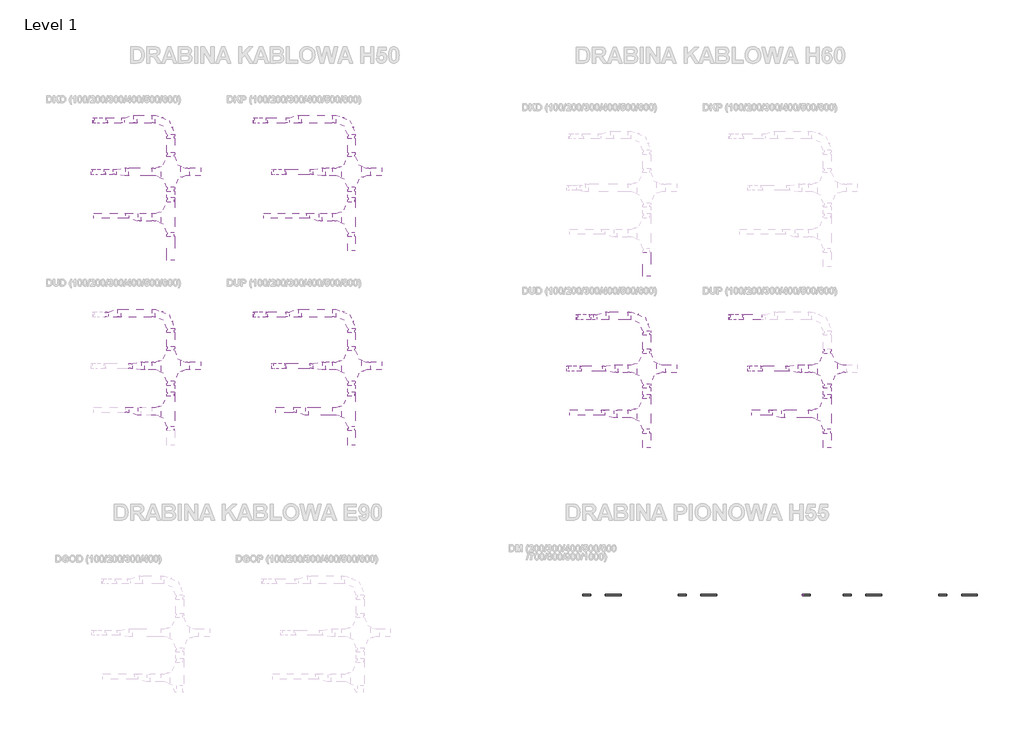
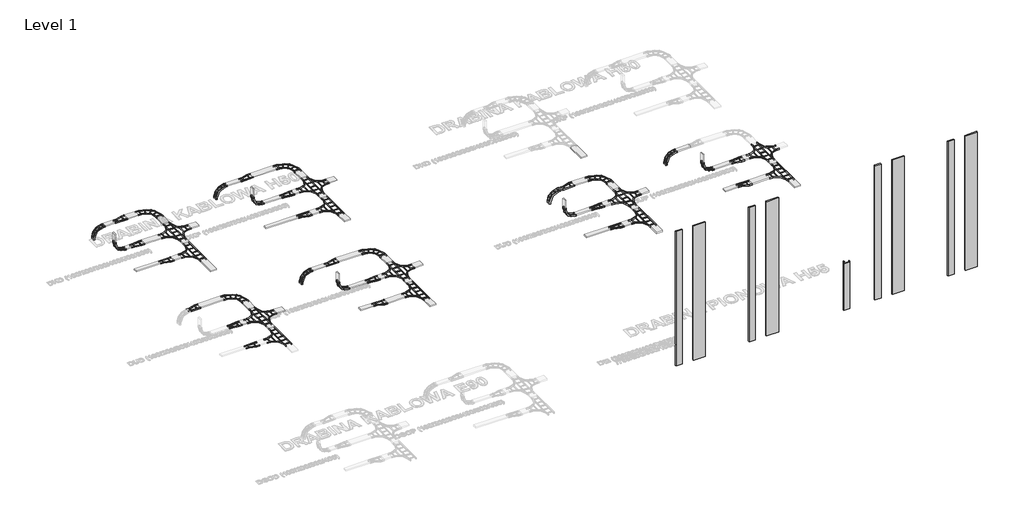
# One storey, part 5 of 42: 72 cable carrier segments, 45 cable carrier fittings.
"""IFC4 building model written with IfcOpenShell, lengths in millimetres."""

from ifc_helpers import new_model, si_unit, frame, origin, origin_with_axes, place, context, project, spatial, polyline, outline, extrude, transform, mapped, element, save
from components import cable_carrier_fitting_1_5_mm_3523910d, cable_carrier_fitting_1_5_mm_19f47176, cable_carrier_fitting_1_5_mm_3fb46f2a, cable_carrier_fitting_1_5_mm_6c32c4d6, cable_carrier_fitting_1_5_mm_98a35593, cable_carrier_fitting_1_5_mm_dfeaff0d, cable_carrier_fitting_1_5_mm_72e9b842, cable_carrier_fitting_1_5_mm_6b6fba04, cable_carrier_fitting_1_5_mm_c50eb6b4, cable_carrier_fitting_1_5_mm_1f838bc7, cable_carrier_fitting_1_5_mm_861352f9, cable_carrier_fitting_1_5_mm_f55de235, cable_carrier_fitting_1_5_mm_ccf48cd3, cable_carrier_fitting_1_5_mm_74426db5, cable_carrier_fitting_1_5_mm_0168b917, cable_carrier_fitting_1_5_mm_cc8ef015, cable_carrier_fitting_1_5_mm_7721eeaa, cable_carrier_fitting_1_5_mm_8b0a73e9, cable_carrier_fitting_1_5_mm_c053843e, standard_x2_db8cc8cd

model = new_model("IFC4")

# Units and contexts
model_context = context("Model", 3, world=origin())
ifc_project = project(units=[si_unit("LENGTHUNIT", "METRE", prefix="MILLI")], contexts=[model_context])

# Site, building, storey
site = spatial("IfcSite", under=ifc_project)
building = spatial("IfcBuilding", under=site)
storey = spatial("IfcBuildingStorey", under=building, Name="Level 1", Elevation=0.0)

# Cable carrier fittings
placement = place(None, origin())
cable_carrier_fitting_1_5_mm_shape = cable_carrier_fitting_1_5_mm_3523910d(model_context)
element("IfcCableCarrierFitting", 1, ObjectType="BAKS_Łuk_drabiny : 1.5 mm", at=placement, inside=storey, context=model_context, shape_type="MappedRepresentation", body=[
    mapped(cable_carrier_fitting_1_5_mm_shape, transform((35775.8987392, 13468.4533524, 2750.0), x_axis=(0.0, 1.0, 0.0), y_axis=(-1.0, 0.0, 0.0), z_axis=(0.0, 0.0, 1.0))),
])
cable_carrier_fitting_1_5_mm_2_shape = cable_carrier_fitting_1_5_mm_19f47176(model_context)
element("IfcCableCarrierFitting", 2, ObjectType="BAKS_Czwórnik_drabiny : 1.5 mm", at=placement, inside=storey, context=model_context, shape_type="MappedRepresentation", body=[
    mapped(cable_carrier_fitting_1_5_mm_2_shape, transform((35775.8987392, 11481.6749022, 2750.0), x_axis=(0.0, 1.0, 0.0), y_axis=(-1.0, 0.0, 0.0), z_axis=(0.0, 0.0, 1.0))),
])
element("IfcCableCarrierFitting", 3, ObjectType="BAKS_Czwórnik_drabiny : 1.5 mm", at=placement, inside=storey, context=model_context, shape_type="MappedRepresentation", body=[
    mapped(cable_carrier_fitting_1_5_mm_2_shape, transform((42575.8987392, 11481.6749022, 2750.0), x_axis=(0.0, 1.0, 0.0), y_axis=(-1.0, 0.0, 0.0), z_axis=(0.0, 0.0, 1.0))),
])
cable_carrier_fitting_1_5_mm_3_shape = cable_carrier_fitting_1_5_mm_3fb46f2a(model_context)
element("IfcCableCarrierFitting", 4, ObjectType="BAKS_Łuk_drabiny : 1.5 mm", at=placement, inside=storey, context=model_context, shape_type="MappedRepresentation", body=[
    mapped(cable_carrier_fitting_1_5_mm_3_shape, transform((17875.8987392, 20868.4533524, 2750.0), x_axis=(0.0, 1.0, 0.0), y_axis=(-1.0, 0.0, 0.0), z_axis=(0.0, 0.0, 1.0))),
])
element("IfcCableCarrierFitting", 5, ObjectType="BAKS_Łuk_drabiny : 1.5 mm", at=placement, inside=storey, context=model_context, shape_type="MappedRepresentation", body=[
    mapped(cable_carrier_fitting_1_5_mm_3_shape, transform((24675.8987392, 20868.4533524, 2750.0), x_axis=(0.0, 1.0, 0.0), y_axis=(-1.0, 0.0, 0.0), z_axis=(0.0, 0.0, 1.0))),
])
element("IfcCableCarrierFitting", 6, ObjectType="BAKS_Łuk_drabiny : 1.5 mm", at=placement, inside=storey, context=model_context, shape_type="MappedRepresentation", body=[
    mapped(cable_carrier_fitting_1_5_mm_3_shape, transform((17875.8987392, 13568.4533524, 2750.0), x_axis=(0.0, 1.0, 0.0), y_axis=(-1.0, 0.0, 0.0), z_axis=(0.0, 0.0, 1.0))),
])
element("IfcCableCarrierFitting", 7, ObjectType="BAKS_Łuk_drabiny : 1.5 mm", at=placement, inside=storey, context=model_context, shape_type="MappedRepresentation", body=[
    mapped(cable_carrier_fitting_1_5_mm_3_shape, transform((24675.8987392, 13568.4533524, 2750.0), x_axis=(0.0, 1.0, 0.0), y_axis=(-1.0, 0.0, 0.0), z_axis=(0.0, 0.0, 1.0))),
])
cable_carrier_fitting_1_5_mm_4_shape = cable_carrier_fitting_1_5_mm_6c32c4d6(model_context)
element("IfcCableCarrierFitting", 8, ObjectType="BAKS_Trójnik_drabiny : 1.5 mm", at=placement, inside=storey, context=model_context, shape_type="MappedRepresentation", body=[
    mapped(cable_carrier_fitting_1_5_mm_4_shape, transform((17875.8987392, 17179.8296821, 2750.0), x_axis=(0.0, -1.0, 0.0), y_axis=(1.0, 0.0, 0.0), z_axis=(0.0, 0.0, 1.0))),
])
element("IfcCableCarrierFitting", 9, ObjectType="BAKS_Trójnik_drabiny : 1.5 mm", at=placement, inside=storey, context=model_context, shape_type="MappedRepresentation", body=[
    mapped(cable_carrier_fitting_1_5_mm_4_shape, transform((24675.8987392, 17179.8296821, 2750.0), x_axis=(0.0, -1.0, 0.0), y_axis=(1.0, 0.0, 0.0), z_axis=(0.0, 0.0, 1.0))),
])
element("IfcCableCarrierFitting", 10, ObjectType="BAKS_Trójnik_drabiny : 1.5 mm", at=placement, inside=storey, context=model_context, shape_type="MappedRepresentation", body=[
    mapped(cable_carrier_fitting_1_5_mm_4_shape, transform((17875.8987392, 9879.8296821, 2750.0), x_axis=(0.0, -1.0, 0.0), y_axis=(1.0, 0.0, 0.0), z_axis=(0.0, 0.0, 1.0))),
])
element("IfcCableCarrierFitting", 11, ObjectType="BAKS_Trójnik_drabiny : 1.5 mm", at=placement, inside=storey, context=model_context, shape_type="MappedRepresentation", body=[
    mapped(cable_carrier_fitting_1_5_mm_4_shape, transform((24675.8987392, 9879.8296821, 2750.0), x_axis=(0.0, -1.0, 0.0), y_axis=(1.0, 0.0, 0.0), z_axis=(0.0, 0.0, 1.0))),
])
cable_carrier_fitting_1_5_mm_5_shape = cable_carrier_fitting_1_5_mm_98a35593(model_context)
element("IfcCableCarrierFitting", 12, ObjectType="BAKS_Czwórnik_drabiny : 1.5 mm", at=placement, inside=storey, context=model_context, shape_type="MappedRepresentation", body=[
    mapped(cable_carrier_fitting_1_5_mm_5_shape, transform((17875.8987392, 18881.6749022, 2750.0), x_axis=(0.0, 1.0, 0.0), y_axis=(-1.0, 0.0, 0.0), z_axis=(0.0, 0.0, 1.0))),
])
element("IfcCableCarrierFitting", 13, ObjectType="BAKS_Czwórnik_drabiny : 1.5 mm", at=placement, inside=storey, context=model_context, shape_type="MappedRepresentation", body=[
    mapped(cable_carrier_fitting_1_5_mm_5_shape, transform((24675.8987392, 18881.6749022, 2750.0), x_axis=(0.0, 1.0, 0.0), y_axis=(-1.0, 0.0, 0.0), z_axis=(0.0, 0.0, 1.0))),
])
element("IfcCableCarrierFitting", 14, ObjectType="BAKS_Czwórnik_drabiny : 1.5 mm", at=placement, inside=storey, context=model_context, shape_type="MappedRepresentation", body=[
    mapped(cable_carrier_fitting_1_5_mm_5_shape, transform((17875.8987392, 11581.6749022, 2750.0), x_axis=(0.0, 1.0, 0.0), y_axis=(-1.0, 0.0, 0.0), z_axis=(0.0, 0.0, 1.0))),
])
element("IfcCableCarrierFitting", 15, ObjectType="BAKS_Czwórnik_drabiny : 1.5 mm", at=placement, inside=storey, context=model_context, shape_type="MappedRepresentation", body=[
    mapped(cable_carrier_fitting_1_5_mm_5_shape, transform((24675.8987392, 11581.6749022, 2750.0), x_axis=(0.0, 1.0, 0.0), y_axis=(-1.0, 0.0, 0.0), z_axis=(0.0, 0.0, 1.0))),
])
cable_carrier_fitting_1_5_mm_6_shape = cable_carrier_fitting_1_5_mm_dfeaff0d(model_context)
element("IfcCableCarrierFitting", 16, ObjectType="BAKS_Redukcja_drabiny : 1.5 mm", at=placement, inside=storey, context=model_context, shape_type="MappedRepresentation", body=[
    mapped(cable_carrier_fitting_1_5_mm_6_shape, transform((16304.2228336, 18881.6749022, 2750.0), x_axis=(-1.0, 0.0, 0.0), y_axis=(0.0, -1.0, 0.0), z_axis=(0.0, 0.0, 1.0))),
])
cable_carrier_fitting_1_5_mm_7_shape = cable_carrier_fitting_1_5_mm_72e9b842(model_context)
element("IfcCableCarrierFitting", 17, ObjectType="BAKS_Redukcja_drabiny : 1.5 mm", at=placement, inside=storey, context=model_context, shape_type="MappedRepresentation", body=[
    mapped(cable_carrier_fitting_1_5_mm_7_shape, transform((16009.31285, 20818.4533524, 2750.0), x_axis=(1.0, 0.0, 0.0), y_axis=(0.0, 1.0, 0.0), z_axis=(0.0, 0.0, 1.0))),
])
cable_carrier_fitting_1_5_mm_8_shape = cable_carrier_fitting_1_5_mm_6b6fba04(model_context)
element("IfcCableCarrierFitting", 18, ObjectType="BAKS_Redukcja_drabiny : 1.5 mm", at=placement, inside=storey, context=model_context, shape_type="MappedRepresentation", body=[
    mapped(cable_carrier_fitting_1_5_mm_8_shape, transform((23104.2228336, 18881.6749022, 2750.0), x_axis=(1.0, 0.0, 0.0), y_axis=(0.0, 1.0, 0.0), z_axis=(0.0, 0.0, 1.0))),
])
element("IfcCableCarrierFitting", 19, ObjectType="BAKS_Redukcja_drabiny : 1.5 mm", at=placement, inside=storey, context=model_context, shape_type="MappedRepresentation", body=[
    mapped(cable_carrier_fitting_1_5_mm_8_shape, transform((16304.2228336, 11581.6749022, 2750.0), x_axis=(1.0, 0.0, 0.0), y_axis=(0.0, 1.0, 0.0), z_axis=(0.0, 0.0, 1.0))),
])
element("IfcCableCarrierFitting", 20, ObjectType="BAKS_Redukcja_drabiny : 1.5 mm", at=placement, inside=storey, context=model_context, shape_type="MappedRepresentation", body=[
    mapped(cable_carrier_fitting_1_5_mm_8_shape, transform((23104.2228336, 11581.6749022, 2750.0), x_axis=(1.0, 0.0, 0.0), y_axis=(0.0, 1.0, 0.0), z_axis=(0.0, 0.0, 1.0))),
])
cable_carrier_fitting_1_5_mm_9_shape = cable_carrier_fitting_1_5_mm_c50eb6b4(model_context)
element("IfcCableCarrierFitting", 21, ObjectType="BAKS_Redukcja_drabiny : 1.5 mm", at=placement, inside=storey, context=model_context, shape_type="MappedRepresentation", body=[
    mapped(cable_carrier_fitting_1_5_mm_9_shape, transform((22809.31285, 20868.4533524, 2750.0), x_axis=(-1.0, 0.0, 0.0), y_axis=(0.0, -1.0, 0.0), z_axis=(0.0, 0.0, 1.0))),
])
element("IfcCableCarrierFitting", 22, ObjectType="BAKS_Redukcja_drabiny : 1.5 mm", at=placement, inside=storey, context=model_context, shape_type="MappedRepresentation", body=[
    mapped(cable_carrier_fitting_1_5_mm_9_shape, transform((16009.31285, 13568.4533524, 2750.0), x_axis=(-1.0, 0.0, 0.0), y_axis=(0.0, -1.0, 0.0), z_axis=(0.0, 0.0, 1.0))),
])
element("IfcCableCarrierFitting", 23, ObjectType="BAKS_Redukcja_drabiny : 1.5 mm", at=placement, inside=storey, context=model_context, shape_type="MappedRepresentation", body=[
    mapped(cable_carrier_fitting_1_5_mm_9_shape, transform((22809.31285, 13568.4533524, 2750.0), x_axis=(-1.0, 0.0, 0.0), y_axis=(0.0, -1.0, 0.0), z_axis=(0.0, 0.0, 1.0))),
])
cable_carrier_fitting_1_5_mm_10_shape = cable_carrier_fitting_1_5_mm_1f838bc7(model_context)
element("IfcCableCarrierFitting", 24, ObjectType="BAKS_Redukcja_drabiny : 1.5 mm", at=placement, inside=storey, context=model_context, shape_type="MappedRepresentation", body=[
    mapped(cable_carrier_fitting_1_5_mm_10_shape, transform((16775.8987392, 17179.8296821, 2750.0), x_axis=(-1.0, 0.0, 0.0), y_axis=(0.0, -1.0, 0.0), z_axis=(0.0, 0.0, 1.0))),
])
element("IfcCableCarrierFitting", 25, ObjectType="BAKS_Redukcja_drabiny : 1.5 mm", at=placement, inside=storey, context=model_context, shape_type="MappedRepresentation", body=[
    mapped(cable_carrier_fitting_1_5_mm_10_shape, transform((23575.8987392, 17179.8296821, 2750.0), x_axis=(-1.0, 0.0, 0.0), y_axis=(0.0, -1.0, 0.0), z_axis=(0.0, 0.0, 1.0))),
])
element("IfcCableCarrierFitting", 26, ObjectType="BAKS_Redukcja_drabiny : 1.5 mm", at=placement, inside=storey, context=model_context, shape_type="MappedRepresentation", body=[
    mapped(cable_carrier_fitting_1_5_mm_10_shape, transform((16775.8987392, 9879.8296821, 2750.0), x_axis=(-1.0, 0.0, 0.0), y_axis=(0.0, -1.0, 0.0), z_axis=(0.0, 0.0, 1.0))),
])
element("IfcCableCarrierFitting", 27, ObjectType="BAKS_Redukcja_drabiny : 1.5 mm", at=placement, inside=storey, context=model_context, shape_type="MappedRepresentation", body=[
    mapped(cable_carrier_fitting_1_5_mm_10_shape, transform((23075.8987392, 9879.8296821, 2750.0), x_axis=(-1.0, 0.0, 0.0), y_axis=(0.0, -1.0, 0.0), z_axis=(0.0, 0.0, 1.0))),
])
cable_carrier_fitting_1_5_mm_11_shape = cable_carrier_fitting_1_5_mm_861352f9(model_context)
element("IfcCableCarrierFitting", 28, ObjectType="BAKS_Łuk_pionowy_drabiny_zew : 1.5 mm", at=placement, inside=storey, context=model_context, shape_type="MappedRepresentation", body=[
    mapped(cable_carrier_fitting_1_5_mm_11_shape, transform((14977.0936106, 20818.4533524, 2750.0), x_axis=(0.0, 0.0, 1.0), y_axis=(1.0, 0.0, 0.0), z_axis=(0.0, 1.0, 0.0))),
])
element("IfcCableCarrierFitting", 29, ObjectType="BAKS_Łuk_pionowy_drabiny_zew : 1.5 mm", at=placement, inside=storey, context=model_context, shape_type="MappedRepresentation", body=[
    mapped(cable_carrier_fitting_1_5_mm_11_shape, transform((20999.2228336, 20818.4533524, 2750.0), x_axis=(0.0, 0.0, 1.0), y_axis=(1.0, 0.0, 0.0), z_axis=(0.0, 1.0, 0.0))),
])
element("IfcCableCarrierFitting", 30, ObjectType="BAKS_Łuk_pionowy_drabiny_zew : 1.5 mm", at=placement, inside=storey, context=model_context, shape_type="MappedRepresentation", body=[
    mapped(cable_carrier_fitting_1_5_mm_11_shape, transform((20999.2228336, 13518.4533524, 2750.0), x_axis=(0.0, 0.0, 1.0), y_axis=(1.0, 0.0, 0.0), z_axis=(0.0, 1.0, 0.0))),
])
cable_carrier_fitting_1_5_mm_12_shape = cable_carrier_fitting_1_5_mm_f55de235(model_context)
element("IfcCableCarrierFitting", 31, ObjectType="BAKS_Łuk_pionowy_drabiny_wew : 1.5 mm", at=placement, inside=storey, context=model_context, shape_type="MappedRepresentation", body=[
    mapped(cable_carrier_fitting_1_5_mm_12_shape, transform((14904.2228336, 18881.6749022, 2750.0), x_axis=(-1.0, 0.0, 0.0), y_axis=(0.0, 0.0, 1.0), z_axis=(0.0, 1.0, 0.0))),
])
element("IfcCableCarrierFitting", 32, ObjectType="BAKS_Łuk_pionowy_drabiny_wew : 1.5 mm", at=placement, inside=storey, context=model_context, shape_type="MappedRepresentation", body=[
    mapped(cable_carrier_fitting_1_5_mm_12_shape, transform((21704.2228336, 18881.6749022, 2750.0), x_axis=(0.0, 0.0, -1.0), y_axis=(1.0, 0.0, 0.0), z_axis=(0.0, -1.0, 0.0))),
])
element("IfcCableCarrierFitting", 33, ObjectType="BAKS_Łuk_pionowy_drabiny_wew : 1.5 mm", at=placement, inside=storey, context=model_context, shape_type="MappedRepresentation", body=[
    mapped(cable_carrier_fitting_1_5_mm_12_shape, transform((21704.2228336, 11581.6749022, 2750.0), x_axis=(0.0, 0.0, -1.0), y_axis=(1.0, 0.0, 0.0), z_axis=(0.0, -1.0, 0.0))),
])
cable_carrier_fitting_1_5_mm_13_shape = cable_carrier_fitting_1_5_mm_ccf48cd3(model_context)
element("IfcCableCarrierFitting", 34, ObjectType="BAKS_Redukcja_drabiny : 1.5 mm", at=placement, inside=storey, context=model_context, shape_type="MappedRepresentation", body=[
    mapped(cable_carrier_fitting_1_5_mm_13_shape, transform((34675.8987392, 9779.8296821, 2750.0), x_axis=(-1.0, 0.0, 0.0), y_axis=(0.0, -1.0, 0.0), z_axis=(0.0, 0.0, 1.0))),
])
element("IfcCableCarrierFitting", 35, ObjectType="BAKS_Redukcja_drabiny : 1.5 mm", at=placement, inside=storey, context=model_context, shape_type="MappedRepresentation", body=[
    mapped(cable_carrier_fitting_1_5_mm_13_shape, transform((40975.8987392, 9779.8296821, 2750.0), x_axis=(-1.0, 0.0, 0.0), y_axis=(0.0, -1.0, 0.0), z_axis=(0.0, 0.0, 1.0))),
])
cable_carrier_fitting_1_5_mm_14_shape = cable_carrier_fitting_1_5_mm_74426db5(model_context)
element("IfcCableCarrierFitting", 36, ObjectType="BAKS_Redukcja_drabiny : 1.5 mm", at=placement, inside=storey, context=model_context, shape_type="MappedRepresentation", body=[
    mapped(cable_carrier_fitting_1_5_mm_14_shape, transform((41604.2228336, 11481.6749022, 2750.0), x_axis=(-1.0, 0.0, 0.0), y_axis=(0.0, -1.0, 0.0), z_axis=(0.0, 0.0, 1.0))),
])
cable_carrier_fitting_1_5_mm_15_shape = cable_carrier_fitting_1_5_mm_0168b917(model_context)
element("IfcCableCarrierFitting", 37, ObjectType="BAKS_Redukcja_drabiny : 1.5 mm", at=placement, inside=storey, context=model_context, shape_type="MappedRepresentation", body=[
    mapped(cable_carrier_fitting_1_5_mm_15_shape, transform((33775.8987392, 13418.4533524, 2750.0), x_axis=(1.0, 0.0, 0.0), y_axis=(0.0, 1.0, 0.0), z_axis=(0.0, 0.0, 1.0))),
])
cable_carrier_fitting_1_5_mm_16_shape = cable_carrier_fitting_1_5_mm_cc8ef015(model_context)
element("IfcCableCarrierFitting", 38, ObjectType="BAKS_Łuk_pionowy_drabiny_zew : 1.5 mm", at=placement, inside=storey, context=model_context, shape_type="MappedRepresentation", body=[
    mapped(cable_carrier_fitting_1_5_mm_16_shape, transform((33154.31285, 13418.4533524, 2750.0), x_axis=(0.0, 0.0, 1.0), y_axis=(1.0, 0.0, 0.0), z_axis=(0.0, 1.0, 0.0))),
])
element("IfcCableCarrierFitting", 39, ObjectType="BAKS_Łuk_pionowy_drabiny_zew : 1.5 mm", at=placement, inside=storey, context=model_context, shape_type="MappedRepresentation", body=[
    mapped(cable_carrier_fitting_1_5_mm_16_shape, transform((38899.2228336, 13418.4533524, 2750.0), x_axis=(0.0, 0.0, 1.0), y_axis=(1.0, 0.0, 0.0), z_axis=(0.0, 1.0, 0.0))),
])
cable_carrier_fitting_1_5_mm_17_shape = cable_carrier_fitting_1_5_mm_7721eeaa(model_context)
element("IfcCableCarrierFitting", 40, ObjectType="BAKS_Łuk_pionowy_drabiny_wew : 1.5 mm", at=placement, inside=storey, context=model_context, shape_type="MappedRepresentation", body=[
    mapped(cable_carrier_fitting_1_5_mm_17_shape, transform((39604.2228336, 11481.6749022, 2750.0), x_axis=(0.0, 0.0, -1.0), y_axis=(1.0, 0.0, 0.0), z_axis=(0.0, -1.0, 0.0))),
])
element("IfcCableCarrierFitting", 41, ObjectType="BAKS_Łuk_pionowy_drabiny_wew : 1.5 mm", at=placement, inside=storey, context=model_context, shape_type="MappedRepresentation", body=[
    mapped(cable_carrier_fitting_1_5_mm_17_shape, transform((32804.2228336, 11481.6749022, 2750.0), x_axis=(0.0, 0.0, -1.0), y_axis=(1.0, 0.0, 0.0), z_axis=(0.0, -1.0, 0.0))),
])
cable_carrier_fitting_1_5_mm_18_shape = cable_carrier_fitting_1_5_mm_8b0a73e9(model_context)
element("IfcCableCarrierFitting", 42, ObjectType="BAKS_Trójnik_drabiny : 1.5 mm", at=placement, inside=storey, context=model_context, shape_type="MappedRepresentation", body=[
    mapped(cable_carrier_fitting_1_5_mm_18_shape, transform((35775.8987392, 9779.8296821, 2750.0), x_axis=(0.0, -1.0, 0.0), y_axis=(1.0, 0.0, 0.0), z_axis=(0.0, 0.0, 1.0))),
])
element("IfcCableCarrierFitting", 43, ObjectType="BAKS_Trójnik_drabiny : 1.5 mm", at=placement, inside=storey, context=model_context, shape_type="MappedRepresentation", body=[
    mapped(cable_carrier_fitting_1_5_mm_18_shape, transform((42575.8987392, 9779.8296821, 2750.0), x_axis=(0.0, -1.0, 0.0), y_axis=(1.0, 0.0, 0.0), z_axis=(0.0, 0.0, 1.0))),
])
cable_carrier_fitting_1_5_mm_19_shape = cable_carrier_fitting_1_5_mm_c053843e(model_context)
element("IfcCableCarrierFitting", 44, ObjectType="BAKS_Redukcja_drabiny : 1.5 mm", at=placement, inside=storey, context=model_context, shape_type="MappedRepresentation", body=[
    mapped(cable_carrier_fitting_1_5_mm_19_shape, transform((34104.2228336, 11481.6749022, 2750.0), x_axis=(1.0, 0.0, 0.0), y_axis=(0.0, 1.0, 0.0), z_axis=(0.0, 0.0, 1.0))),
])
standard_x2_shape = standard_x2_db8cc8cd(model_context)
element("IfcCableCarrierFitting", 45, ObjectType="BAKS_Łącznik_kątowy : Standard x2", at=placement, inside=storey, context=model_context, shape_type="MappedRepresentation", body=[
    mapped(standard_x2_shape, transform((41776.7948371, 2964.3646331, 2464.3062733), x_axis=(0.0, 0.0, 1.0), y_axis=(1.0, 0.0, 0.0), z_axis=(0.0, 1.0, 0.0))),
])

# Cable carrier segments
element("IfcCableCarrierSegment", 46, ObjectType="BAKS - drabina kablowa H50 (DKD)", at=placement, inside=storey, context=model_context, shape_type="SweptSolid", body=[
    extrude(outline(polyline([(15002.0936106, 20718.4533524), (14952.0936106, 20718.4533524), (14952.0936106, 20918.4533524), (15002.0936106, 20918.4533524), (15002.0936106, 20718.4533524)])), frame((0.0, 0.0, 2200.0), z_axis=(0.0, 0.0, 1.0), x_axis=(1.0, 0.0, 0.0)), (0.0, 0.0, 1.0), 25.0),
])
element("IfcCableCarrierSegment", 47, ObjectType="BAKS - drabina kablowa H50 (DKD)", at=placement, inside=storey, context=model_context, shape_type="SweptSolid", body=[
    extrude(outline(polyline([(17725.8987392, 16459.8296821), (18025.8987392, 16459.8296821), (18025.8987392, 15559.8296821), (17725.8987392, 15559.8296821), (17725.8987392, 16459.8296821)])), frame((0.0, 0.0, 2725.0), z_axis=(0.0, 0.0, 1.0), x_axis=(1.0, 0.0, 0.0)), (0.0, 0.0, 1.0), 50.0),
])
element("IfcCableCarrierSegment", 48, ObjectType="BAKS - drabina kablowa H50 (DKD)", at=placement, inside=storey, context=model_context, shape_type="SweptSolid", body=[
    extrude(outline(polyline([(17155.8987392, 17329.8296821), (17155.8987392, 17029.8296821), (16775.8987392, 17029.8296821), (16775.8987392, 17329.8296821), (17155.8987392, 17329.8296821)])), frame((0.0, 0.0, 2725.0), z_axis=(0.0, 0.0, 1.0), x_axis=(1.0, 0.0, 0.0)), (0.0, 0.0, 1.0), 50.0),
])
element("IfcCableCarrierSegment", 49, ObjectType="BAKS - drabina kablowa H50 (DKD)", at=placement, inside=storey, context=model_context, shape_type="SweptSolid", body=[
    extrude(outline(polyline([(17155.8987392, 21018.4533524), (17155.8987392, 20718.4533524), (16609.31285, 20718.4533524), (16609.31285, 21018.4533524), (17155.8987392, 21018.4533524)])), frame((0.0, 0.0, 2725.0), z_axis=(0.0, 0.0, 1.0), x_axis=(1.0, 0.0, 0.0)), (0.0, 0.0, 1.0), 50.0),
])
element("IfcCableCarrierSegment", 50, ObjectType="BAKS - drabina kablowa H50 (DKD)", at=placement, inside=storey, context=model_context, shape_type="SweptSolid", body=[
    extrude(outline(polyline([(18025.8987392, 19601.6749022), (17725.8987392, 19601.6749022), (17725.8987392, 20148.4533524), (18025.8987392, 20148.4533524), (18025.8987392, 19601.6749022)])), frame((0.0, 0.0, 2725.0), z_axis=(0.0, 0.0, 1.0), x_axis=(1.0, 0.0, 0.0)), (0.0, 0.0, 1.0), 50.0),
])
element("IfcCableCarrierSegment", 51, ObjectType="BAKS - drabina kablowa H50 (DKD)", at=placement, inside=storey, context=model_context, shape_type="SweptSolid", body=[
    extrude(outline(polyline([(18595.8987392, 18731.6749022), (18595.8987392, 19031.6749022), (19004.2228336, 19031.6749022), (19004.2228336, 18731.6749022), (18595.8987392, 18731.6749022)])), frame((0.0, 0.0, 2725.0), z_axis=(0.0, 0.0, 1.0), x_axis=(1.0, 0.0, 0.0)), (0.0, 0.0, 1.0), 50.0),
])
element("IfcCableCarrierSegment", 52, ObjectType="BAKS - drabina kablowa H50 (DKD)", at=placement, inside=storey, context=model_context, shape_type="SweptSolid", body=[
    extrude(outline(polyline([(18025.8987392, 17899.8296821), (17725.8987392, 17899.8296821), (17725.8987392, 18161.6749022), (18025.8987392, 18161.6749022), (18025.8987392, 17899.8296821)])), frame((0.0, 0.0, 2725.0), z_axis=(0.0, 0.0, 1.0), x_axis=(1.0, 0.0, 0.0)), (0.0, 0.0, 1.0), 50.0),
])
element("IfcCableCarrierSegment", 53, ObjectType="BAKS - drabina kablowa H50 (DKD)", at=placement, inside=storey, context=model_context, shape_type="SweptSolid", body=[
    extrude(outline(polyline([(17155.8987392, 19031.6749022), (17155.8987392, 18731.6749022), (16304.2228336, 18731.6749022), (16304.2228336, 19031.6749022), (17155.8987392, 19031.6749022)])), frame((0.0, 0.0, 2725.0), z_axis=(0.0, 0.0, 1.0), x_axis=(1.0, 0.0, 0.0)), (0.0, 0.0, 1.0), 50.0),
])
element("IfcCableCarrierSegment", 54, ObjectType="BAKS - drabina kablowa H50 (DKD)", at=placement, inside=storey, context=model_context, shape_type="SweptSolid", body=[
    extrude(outline(polyline([(15704.2228336, 18981.6749022), (15704.2228336, 18781.6749022), (15429.2228336, 18781.6749022), (15429.2228336, 18981.6749022), (15704.2228336, 18981.6749022)])), frame((0.0, 0.0, 2725.0), z_axis=(0.0, 0.0, 1.0), x_axis=(1.0, 0.0, 0.0)), (0.0, 0.0, 1.0), 50.0),
])
element("IfcCableCarrierSegment", 55, ObjectType="BAKS - drabina kablowa H50 (DKD)", at=placement, inside=storey, context=model_context, shape_type="SweptSolid", body=[
    extrude(outline(polyline([(15502.0936106, 20718.4533524), (15502.0936106, 20918.4533524), (16009.31285, 20918.4533524), (16009.31285, 20718.4533524), (15502.0936106, 20718.4533524)])), frame((0.0, 0.0, 2725.0), z_axis=(0.0, 0.0, 1.0), x_axis=(1.0, 0.0, 0.0)), (0.0, 0.0, 1.0), 50.0),
])
element("IfcCableCarrierSegment", 56, ObjectType="BAKS - drabina kablowa H50 (DKD)", at=placement, inside=storey, context=model_context, shape_type="SweptSolid", body=[
    extrude(outline(polyline([(14879.2228336, 18981.6749022), (14929.2228336, 18981.6749022), (14929.2228336, 18781.6749022), (14879.2228336, 18781.6749022), (14879.2228336, 18981.6749022)])), frame((0.0, 0.0, 3275.0), z_axis=(0.0, 0.0, 1.0), x_axis=(1.0, 0.0, 0.0)), (0.0, 0.0, 1.0), 425.0),
])
element("IfcCableCarrierSegment", 57, ObjectType="BAKS - drabina kablowa H50 (DKP)", at=placement, inside=storey, context=model_context, shape_type="SweptSolid", body=[
    extrude(outline(polyline([(24825.8987392, 17899.8296821), (24525.8987392, 17899.8296821), (24525.8987392, 18161.6749022), (24825.8987392, 18161.6749022), (24825.8987392, 17899.8296821)])), frame((0.0, 0.0, 2725.0), z_axis=(0.0, 0.0, 1.0), x_axis=(1.0, 0.0, 0.0)), (0.0, 0.0, 1.0), 50.0),
])
element("IfcCableCarrierSegment", 58, ObjectType="BAKS - drabina kablowa H50 (DKP)", at=placement, inside=storey, context=model_context, shape_type="SweptSolid", body=[
    extrude(outline(polyline([(21024.2228336, 20718.4533524), (20974.2228336, 20718.4533524), (20974.2228336, 20918.4533524), (21024.2228336, 20918.4533524), (21024.2228336, 20718.4533524)])), frame((0.0, 0.0, 2200.0), z_axis=(0.0, 0.0, 1.0), x_axis=(1.0, 0.0, 0.0)), (0.0, 0.0, 1.0), 25.0),
])
element("IfcCableCarrierSegment", 59, ObjectType="BAKS - drabina kablowa H50 (DKP)", at=placement, inside=storey, context=model_context, shape_type="SweptSolid", body=[
    extrude(outline(polyline([(24825.8987392, 15908.4533524), (24525.8987392, 15908.4533524), (24525.8987392, 16459.8296821), (24825.8987392, 16459.8296821), (24825.8987392, 15908.4533524)])), frame((0.0, 0.0, 2725.0), z_axis=(0.0, 0.0, 1.0), x_axis=(1.0, 0.0, 0.0)), (0.0, 0.0, 1.0), 50.0),
])
element("IfcCableCarrierSegment", 60, ObjectType="BAKS - drabina kablowa H50 (DKP)", at=placement, inside=storey, context=model_context, shape_type="SweptSolid", body=[
    extrude(outline(polyline([(25804.2228336, 19031.6749022), (25804.2228336, 18731.6749022), (25395.8987392, 18731.6749022), (25395.8987392, 19031.6749022), (25804.2228336, 19031.6749022)])), frame((0.0, 0.0, 2725.0), z_axis=(0.0, 0.0, 1.0), x_axis=(1.0, 0.0, 0.0)), (0.0, 0.0, 1.0), 50.0),
])
element("IfcCableCarrierSegment", 61, ObjectType="BAKS - drabina kablowa H50 (DKP)", at=placement, inside=storey, context=model_context, shape_type="SweptSolid", body=[
    extrude(outline(polyline([(21679.2228336, 18781.6749022), (21679.2228336, 18981.6749022), (21729.2228336, 18981.6749022), (21729.2228336, 18781.6749022), (21679.2228336, 18781.6749022)])), frame((0.0, 0.0, 3275.0), z_axis=(0.0, 0.0, 1.0), x_axis=(1.0, 0.0, 0.0)), (0.0, 0.0, 1.0), 425.0),
])
element("IfcCableCarrierSegment", 62, ObjectType="BAKS - drabina kablowa H50 (DKP)", at=placement, inside=storey, context=model_context, shape_type="SweptSolid", body=[
    extrude(outline(polyline([(22229.2228336, 18781.6749022), (22229.2228336, 18981.6749022), (23104.2228336, 18981.6749022), (23104.2228336, 18781.6749022), (22229.2228336, 18781.6749022)])), frame((0.0, 0.0, 2725.0), z_axis=(0.0, 0.0, 1.0), x_axis=(1.0, 0.0, 0.0)), (0.0, 0.0, 1.0), 50.0),
])
element("IfcCableCarrierSegment", 63, ObjectType="BAKS - drabina kablowa H50 (DKP)", at=placement, inside=storey, context=model_context, shape_type="SweptSolid", body=[
    extrude(outline(polyline([(23575.8987392, 17029.8296821), (23575.8987392, 17329.8296821), (23955.8987392, 17329.8296821), (23955.8987392, 17029.8296821), (23575.8987392, 17029.8296821)])), frame((0.0, 0.0, 2725.0), z_axis=(0.0, 0.0, 1.0), x_axis=(1.0, 0.0, 0.0)), (0.0, 0.0, 1.0), 50.0),
])
element("IfcCableCarrierSegment", 64, ObjectType="BAKS - drabina kablowa H50 (DKP)", at=placement, inside=storey, context=model_context, shape_type="SweptSolid", body=[
    extrude(outline(polyline([(23704.2228336, 18731.6749022), (23704.2228336, 19031.6749022), (23955.8987392, 19031.6749022), (23955.8987392, 18731.6749022), (23704.2228336, 18731.6749022)])), frame((0.0, 0.0, 2725.0), z_axis=(0.0, 0.0, 1.0), x_axis=(1.0, 0.0, 0.0)), (0.0, 0.0, 1.0), 50.0),
])
element("IfcCableCarrierSegment", 65, ObjectType="BAKS - drabina kablowa H50 (DKP)", at=placement, inside=storey, context=model_context, shape_type="SweptSolid", body=[
    extrude(outline(polyline([(24825.8987392, 19601.6749022), (24525.8987392, 19601.6749022), (24525.8987392, 20148.4533524), (24825.8987392, 20148.4533524), (24825.8987392, 19601.6749022)])), frame((0.0, 0.0, 2725.0), z_axis=(0.0, 0.0, 1.0), x_axis=(1.0, 0.0, 0.0)), (0.0, 0.0, 1.0), 50.0),
])
element("IfcCableCarrierSegment", 66, ObjectType="BAKS - drabina kablowa H50 (DKP)", at=placement, inside=storey, context=model_context, shape_type="SweptSolid", body=[
    extrude(outline(polyline([(23955.8987392, 21018.4533524), (23955.8987392, 20718.4533524), (22809.31285, 20718.4533524), (22809.31285, 21018.4533524), (23955.8987392, 21018.4533524)])), frame((0.0, 0.0, 2725.0), z_axis=(0.0, 0.0, 1.0), x_axis=(1.0, 0.0, 0.0)), (0.0, 0.0, 1.0), 50.0),
])
element("IfcCableCarrierSegment", 67, ObjectType="BAKS - drabina kablowa H50 (DKP)", at=placement, inside=storey, context=model_context, shape_type="SweptSolid", body=[
    extrude(outline(polyline([(22209.31285, 20918.4533524), (22209.31285, 20718.4533524), (21524.2228336, 20718.4533524), (21524.2228336, 20918.4533524), (22209.31285, 20918.4533524)])), frame((0.0, 0.0, 2725.0), z_axis=(0.0, 0.0, 1.0), x_axis=(1.0, 0.0, 0.0)), (0.0, 0.0, 1.0), 50.0),
])
element("IfcCableCarrierSegment", 68, ObjectType="BAKS - drabina kablowa H50 (DUD)", at=placement, inside=storey, context=model_context, shape_type="SweptSolid", body=[
    extrude(outline(polyline([(18025.8987392, 10599.8296821), (17725.8987392, 10599.8296821), (17725.8987392, 10861.6749022), (18025.8987392, 10861.6749022), (18025.8987392, 10599.8296821)])), frame((0.0, 0.0, 2725.0), z_axis=(0.0, 0.0, 1.0), x_axis=(1.0, 0.0, 0.0)), (0.0, 0.0, 1.0), 50.0),
])
element("IfcCableCarrierSegment", 69, ObjectType="BAKS - drabina kablowa H50 (DUD)", at=placement, inside=storey, context=model_context, shape_type="SweptSolid", body=[
    extrude(outline(polyline([(19004.2228336, 11731.6749022), (19004.2228336, 11431.6749022), (18595.8987392, 11431.6749022), (18595.8987392, 11731.6749022), (19004.2228336, 11731.6749022)])), frame((0.0, 0.0, 2725.0), z_axis=(0.0, 0.0, 1.0), x_axis=(1.0, 0.0, 0.0)), (0.0, 0.0, 1.0), 50.0),
])
element("IfcCableCarrierSegment", 70, ObjectType="BAKS - drabina kablowa H50 (DUD)", at=placement, inside=storey, context=model_context, shape_type="SweptSolid", body=[
    extrude(outline(polyline([(16904.2228336, 11431.6749022), (16904.2228336, 11731.6749022), (17155.8987392, 11731.6749022), (17155.8987392, 11431.6749022), (16904.2228336, 11431.6749022)])), frame((0.0, 0.0, 2725.0), z_axis=(0.0, 0.0, 1.0), x_axis=(1.0, 0.0, 0.0)), (0.0, 0.0, 1.0), 50.0),
])
element("IfcCableCarrierSegment", 71, ObjectType="BAKS - drabina kablowa H50 (DUD)", at=placement, inside=storey, context=model_context, shape_type="SweptSolid", body=[
    extrude(outline(polyline([(18025.8987392, 12301.6749022), (17725.8987392, 12301.6749022), (17725.8987392, 12848.4533524), (18025.8987392, 12848.4533524), (18025.8987392, 12301.6749022)])), frame((0.0, 0.0, 2725.0), z_axis=(0.0, 0.0, 1.0), x_axis=(1.0, 0.0, 0.0)), (0.0, 0.0, 1.0), 50.0),
])
element("IfcCableCarrierSegment", 72, ObjectType="BAKS - drabina kablowa H50 (DUD)", at=placement, inside=storey, context=model_context, shape_type="SweptSolid", body=[
    extrude(outline(polyline([(17155.8987392, 13718.4533524), (17155.8987392, 13418.4533524), (16009.31285, 13418.4533524), (16009.31285, 13718.4533524), (17155.8987392, 13718.4533524)])), frame((0.0, 0.0, 2725.0), z_axis=(0.0, 0.0, 1.0), x_axis=(1.0, 0.0, 0.0)), (0.0, 0.0, 1.0), 50.0),
])
element("IfcCableCarrierSegment", 73, ObjectType="BAKS - drabina kablowa H50 (DUP)", at=placement, inside=storey, context=model_context, shape_type="SweptSolid", body=[
    extrude(outline(polyline([(24825.8987392, 10599.8296821), (24525.8987392, 10599.8296821), (24525.8987392, 10861.6749022), (24825.8987392, 10861.6749022), (24825.8987392, 10599.8296821)])), frame((0.0, 0.0, 2725.0), z_axis=(0.0, 0.0, 1.0), x_axis=(1.0, 0.0, 0.0)), (0.0, 0.0, 1.0), 50.0),
])
element("IfcCableCarrierSegment", 74, ObjectType="BAKS - drabina kablowa H50 (DUP)", at=placement, inside=storey, context=model_context, shape_type="SweptSolid", body=[
    extrude(outline(polyline([(21024.2228336, 13418.4533524), (20974.2228336, 13418.4533524), (20974.2228336, 13618.4533524), (21024.2228336, 13618.4533524), (21024.2228336, 13418.4533524)])), frame((0.0, 0.0, 2200.0), z_axis=(0.0, 0.0, 1.0), x_axis=(1.0, 0.0, 0.0)), (0.0, 0.0, 1.0), 25.0),
])
element("IfcCableCarrierSegment", 75, ObjectType="BAKS - drabina kablowa H50 (DUP)", at=placement, inside=storey, context=model_context, shape_type="SweptSolid", body=[
    extrude(outline(polyline([(22209.31285, 13618.4533524), (22209.31285, 13418.4533524), (21524.2228336, 13418.4533524), (21524.2228336, 13618.4533524), (22209.31285, 13618.4533524)])), frame((0.0, 0.0, 2725.0), z_axis=(0.0, 0.0, 1.0), x_axis=(1.0, 0.0, 0.0)), (0.0, 0.0, 1.0), 50.0),
])
element("IfcCableCarrierSegment", 76, ObjectType="BAKS - drabina kablowa H50 (DUP)", at=placement, inside=storey, context=model_context, shape_type="SweptSolid", body=[
    extrude(outline(polyline([(24825.8987392, 8608.4533524), (24525.8987392, 8608.4533524), (24525.8987392, 9159.8296821), (24825.8987392, 9159.8296821), (24825.8987392, 8608.4533524)])), frame((0.0, 0.0, 2725.0), z_axis=(0.0, 0.0, 1.0), x_axis=(1.0, 0.0, 0.0)), (0.0, 0.0, 1.0), 50.0),
])
element("IfcCableCarrierSegment", 77, ObjectType="BAKS - drabina kablowa H50 (DUP)", at=placement, inside=storey, context=model_context, shape_type="SweptSolid", body=[
    extrude(outline(polyline([(25804.2228336, 11731.6749022), (25804.2228336, 11431.6749022), (25395.8987392, 11431.6749022), (25395.8987392, 11731.6749022), (25804.2228336, 11731.6749022)])), frame((0.0, 0.0, 2725.0), z_axis=(0.0, 0.0, 1.0), x_axis=(1.0, 0.0, 0.0)), (0.0, 0.0, 1.0), 50.0),
])
element("IfcCableCarrierSegment", 78, ObjectType="BAKS - drabina kablowa H50 (DUP)", at=placement, inside=storey, context=model_context, shape_type="SweptSolid", body=[
    extrude(outline(polyline([(21679.2228336, 11481.6749022), (21679.2228336, 11681.6749022), (21729.2228336, 11681.6749022), (21729.2228336, 11481.6749022), (21679.2228336, 11481.6749022)])), frame((0.0, 0.0, 3275.0), z_axis=(0.0, 0.0, 1.0), x_axis=(1.0, 0.0, 0.0)), (0.0, 0.0, 1.0), 425.0),
])
element("IfcCableCarrierSegment", 79, ObjectType="BAKS - drabina kablowa H50 (DUP)", at=placement, inside=storey, context=model_context, shape_type="SweptSolid", body=[
    extrude(outline(polyline([(22229.2228336, 11481.6749022), (22229.2228336, 11681.6749022), (23104.2228336, 11681.6749022), (23104.2228336, 11481.6749022), (22229.2228336, 11481.6749022)])), frame((0.0, 0.0, 2725.0), z_axis=(0.0, 0.0, 1.0), x_axis=(1.0, 0.0, 0.0)), (0.0, 0.0, 1.0), 50.0),
])
element("IfcCableCarrierSegment", 80, ObjectType="BAKS - drabina kablowa H50 (DUP)", at=placement, inside=storey, context=model_context, shape_type="SweptSolid", body=[
    extrude(outline(polyline([(23955.8987392, 10029.8296821), (23955.8987392, 9729.8296821), (23075.8987392, 9729.8296821), (23075.8987392, 10029.8296821), (23955.8987392, 10029.8296821)])), frame((0.0, 0.0, 2725.0), z_axis=(0.0, 0.0, 1.0), x_axis=(1.0, 0.0, 0.0)), (0.0, 0.0, 1.0), 50.0),
])
element("IfcCableCarrierSegment", 81, ObjectType="BAKS - drabina kablowa H50 (DUP)", at=placement, inside=storey, context=model_context, shape_type="SweptSolid", body=[
    extrude(outline(polyline([(23704.2228336, 11431.6749022), (23704.2228336, 11731.6749022), (23955.8987392, 11731.6749022), (23955.8987392, 11431.6749022), (23704.2228336, 11431.6749022)])), frame((0.0, 0.0, 2725.0), z_axis=(0.0, 0.0, 1.0), x_axis=(1.0, 0.0, 0.0)), (0.0, 0.0, 1.0), 50.0),
])
element("IfcCableCarrierSegment", 82, ObjectType="BAKS - drabina kablowa H50 (DUP)", at=placement, inside=storey, context=model_context, shape_type="SweptSolid", body=[
    extrude(outline(polyline([(24825.8987392, 12301.6749022), (24525.8987392, 12301.6749022), (24525.8987392, 12848.4533524), (24825.8987392, 12848.4533524), (24825.8987392, 12301.6749022)])), frame((0.0, 0.0, 2725.0), z_axis=(0.0, 0.0, 1.0), x_axis=(1.0, 0.0, 0.0)), (0.0, 0.0, 1.0), 50.0),
])
element("IfcCableCarrierSegment", 83, ObjectType="BAKS - drabina kablowa H50 (DUP)", at=placement, inside=storey, context=model_context, shape_type="SweptSolid", body=[
    extrude(outline(polyline([(23955.8987392, 13718.4533524), (23955.8987392, 13418.4533524), (22809.31285, 13418.4533524), (22809.31285, 13718.4533524), (23955.8987392, 13718.4533524)])), frame((0.0, 0.0, 2725.0), z_axis=(0.0, 0.0, 1.0), x_axis=(1.0, 0.0, 0.0)), (0.0, 0.0, 1.0), 50.0),
])
element("IfcCableCarrierSegment", 84, ObjectType="BAKS - drabina kablowa H50 (DKD)", at=placement, inside=storey, context=model_context, shape_type="SweptSolid", body=[
    extrude(outline(polyline([(16175.8987392, 17329.8296821), (16175.8987392, 17129.8296821), (14975.8987392, 17129.8296821), (14975.8987392, 17329.8296821), (16175.8987392, 17329.8296821)])), frame((0.0, 0.0, 2725.0), z_axis=(0.0, 0.0, 1.0), x_axis=(1.0, 0.0, 0.0)), (0.0, 0.0, 1.0), 50.0),
])
element("IfcCableCarrierSegment", 85, ObjectType="BAKS - drabina kablowa H50 (DKP)", at=placement, inside=storey, context=model_context, shape_type="SweptSolid", body=[
    extrude(outline(polyline([(22975.8987392, 17329.8296821), (22975.8987392, 17129.8296821), (21375.8987392, 17129.8296821), (21375.8987392, 17329.8296821), (22975.8987392, 17329.8296821)])), frame((0.0, 0.0, 2725.0), z_axis=(0.0, 0.0, 1.0), x_axis=(1.0, 0.0, 0.0)), (0.0, 0.0, 1.0), 50.0),
])
element("IfcCableCarrierSegment", 86, ObjectType="BAKS - drabina kablowa H50 (DUP)", at=placement, inside=storey, context=model_context, shape_type="SweptSolid", body=[
    extrude(outline(polyline([(22475.8987392, 10029.8296821), (22475.8987392, 9829.8296821), (21835.8987392, 9829.8296821), (21835.8987392, 10029.8296821), (22475.8987392, 10029.8296821)])), frame((0.0, 0.0, 2725.0), z_axis=(0.0, 0.0, 1.0), x_axis=(1.0, 0.0, 0.0)), (0.0, 0.0, 1.0), 50.0),
])
element("IfcCableCarrierSegment", 87, ObjectType="BAKS - drabina kablowa H60 (DKD)", at=placement, inside=storey, context=model_context, shape_type="SweptSolid", body=[
    extrude(outline(polyline([(35925.8987392, 14959.8296821), (35625.8987392, 14959.8296821), (35625.8987392, 15859.8296821), (35925.8987392, 15859.8296821), (35925.8987392, 14959.8296821)])), frame((0.0, 0.0, 2720.0), z_axis=(0.0, 0.0, 1.0), x_axis=(1.0, 0.0, 0.0)), (0.0, 0.0, 1.0), 60.0),
])
element("IfcCableCarrierSegment", 88, ObjectType="BAKS - drabina kablowa H60 (DUD)", at=placement, inside=storey, context=model_context, shape_type="SweptSolid", body=[
    extrude(outline(polyline([(35925.8987392, 10499.8296821), (35625.8987392, 10499.8296821), (35625.8987392, 10761.6749022), (35925.8987392, 10761.6749022), (35925.8987392, 10499.8296821)])), frame((0.0, 0.0, 2720.0), z_axis=(0.0, 0.0, 1.0), x_axis=(1.0, 0.0, 0.0)), (0.0, 0.0, 1.0), 60.0),
])
element("IfcCableCarrierSegment", 89, ObjectType="BAKS - drabina kablowa H60 (DUD)", at=placement, inside=storey, context=model_context, shape_type="SweptSolid", body=[
    extrude(outline(polyline([(33184.31285, 13318.4533524), (33124.31285, 13318.4533524), (33124.31285, 13518.4533524), (33184.31285, 13518.4533524), (33184.31285, 13318.4533524)])), frame((0.0, 0.0, 2200.0), z_axis=(0.0, 0.0, 1.0), x_axis=(1.0, 0.0, 0.0)), (0.0, 0.0, 1.0), 20.0),
])
element("IfcCableCarrierSegment", 90, ObjectType="BAKS - drabina kablowa H60 (DUD)", at=placement, inside=storey, context=model_context, shape_type="SweptSolid", body=[
    extrude(outline(polyline([(33775.8987392, 13518.4533524), (33775.8987392, 13318.4533524), (33684.31285, 13318.4533524), (33684.31285, 13518.4533524), (33775.8987392, 13518.4533524)])), frame((0.0, 0.0, 2720.0), z_axis=(0.0, 0.0, 1.0), x_axis=(1.0, 0.0, 0.0)), (0.0, 0.0, 1.0), 60.0),
])
element("IfcCableCarrierSegment", 91, ObjectType="BAKS - drabina kablowa H60 (DUD)", at=placement, inside=storey, context=model_context, shape_type="SweptSolid", body=[
    extrude(outline(polyline([(35925.8987392, 8508.4533524), (35625.8987392, 8508.4533524), (35625.8987392, 9059.8296821), (35925.8987392, 9059.8296821), (35925.8987392, 8508.4533524)])), frame((0.0, 0.0, 2720.0), z_axis=(0.0, 0.0, 1.0), x_axis=(1.0, 0.0, 0.0)), (0.0, 0.0, 1.0), 60.0),
])
element("IfcCableCarrierSegment", 92, ObjectType="BAKS - drabina kablowa H60 (DUD)", at=placement, inside=storey, context=model_context, shape_type="SweptSolid", body=[
    extrude(outline(polyline([(36904.2228336, 11631.6749022), (36904.2228336, 11331.6749022), (36495.8987392, 11331.6749022), (36495.8987392, 11631.6749022), (36904.2228336, 11631.6749022)])), frame((0.0, 0.0, 2720.0), z_axis=(0.0, 0.0, 1.0), x_axis=(1.0, 0.0, 0.0)), (0.0, 0.0, 1.0), 60.0),
])
element("IfcCableCarrierSegment", 93, ObjectType="BAKS - drabina kablowa H60 (DUD)", at=placement, inside=storey, context=model_context, shape_type="SweptSolid", body=[
    extrude(outline(polyline([(32774.2228336, 11381.6749022), (32774.2228336, 11581.6749022), (32834.2228336, 11581.6749022), (32834.2228336, 11381.6749022), (32774.2228336, 11381.6749022)])), frame((0.0, 0.0, 3280.0), z_axis=(0.0, 0.0, 1.0), x_axis=(1.0, 0.0, 0.0)), (0.0, 0.0, 1.0), 420.0),
])
element("IfcCableCarrierSegment", 94, ObjectType="BAKS - drabina kablowa H60 (DUD)", at=placement, inside=storey, context=model_context, shape_type="SweptSolid", body=[
    extrude(outline(polyline([(33334.2228336, 11381.6749022), (33334.2228336, 11581.6749022), (34104.2228336, 11581.6749022), (34104.2228336, 11381.6749022), (33334.2228336, 11381.6749022)])), frame((0.0, 0.0, 2720.0), z_axis=(0.0, 0.0, 1.0), x_axis=(1.0, 0.0, 0.0)), (0.0, 0.0, 1.0), 60.0),
])
element("IfcCableCarrierSegment", 95, ObjectType="BAKS - drabina kablowa H60 (DUD)", at=placement, inside=storey, context=model_context, shape_type="SweptSolid", body=[
    extrude(outline(polyline([(34075.8987392, 9929.8296821), (34075.8987392, 9729.8296821), (32875.8987392, 9729.8296821), (32875.8987392, 9929.8296821), (34075.8987392, 9929.8296821)])), frame((0.0, 0.0, 2720.0), z_axis=(0.0, 0.0, 1.0), x_axis=(1.0, 0.0, 0.0)), (0.0, 0.0, 1.0), 60.0),
])
element("IfcCableCarrierSegment", 96, ObjectType="BAKS - drabina kablowa H60 (DUD)", at=placement, inside=storey, context=model_context, shape_type="SweptSolid", body=[
    extrude(outline(polyline([(35055.8987392, 9929.8296821), (35055.8987392, 9629.8296821), (34675.8987392, 9629.8296821), (34675.8987392, 9929.8296821), (35055.8987392, 9929.8296821)])), frame((0.0, 0.0, 2720.0), z_axis=(0.0, 0.0, 1.0), x_axis=(1.0, 0.0, 0.0)), (0.0, 0.0, 1.0), 60.0),
])
element("IfcCableCarrierSegment", 97, ObjectType="BAKS - drabina kablowa H60 (DUD)", at=placement, inside=storey, context=model_context, shape_type="SweptSolid", body=[
    extrude(outline(polyline([(35925.8987392, 12201.6749022), (35625.8987392, 12201.6749022), (35625.8987392, 12748.4533524), (35925.8987392, 12748.4533524), (35925.8987392, 12201.6749022)])), frame((0.0, 0.0, 2720.0), z_axis=(0.0, 0.0, 1.0), x_axis=(1.0, 0.0, 0.0)), (0.0, 0.0, 1.0), 60.0),
])
element("IfcCableCarrierSegment", 98, ObjectType="BAKS - drabina kablowa H60 (DUD)", at=placement, inside=storey, context=model_context, shape_type="SweptSolid", body=[
    extrude(outline(polyline([(35055.8987392, 13618.4533524), (35055.8987392, 13318.4533524), (34375.8987392, 13318.4533524), (34375.8987392, 13618.4533524), (35055.8987392, 13618.4533524)])), frame((0.0, 0.0, 2720.0), z_axis=(0.0, 0.0, 1.0), x_axis=(1.0, 0.0, 0.0)), (0.0, 0.0, 1.0), 60.0),
])
element("IfcCableCarrierSegment", 99, ObjectType="BAKS - drabina kablowa H60 (DUP)", at=placement, inside=storey, context=model_context, shape_type="SweptSolid", body=[
    extrude(outline(polyline([(42725.8987392, 10499.8296821), (42425.8987392, 10499.8296821), (42425.8987392, 10761.6749022), (42725.8987392, 10761.6749022), (42725.8987392, 10499.8296821)])), frame((0.0, 0.0, 2720.0), z_axis=(0.0, 0.0, 1.0), x_axis=(1.0, 0.0, 0.0)), (0.0, 0.0, 1.0), 60.0),
])
element("IfcCableCarrierSegment", 100, ObjectType="BAKS - drabina kablowa H60 (DUP)", at=placement, inside=storey, context=model_context, shape_type="SweptSolid", body=[
    extrude(outline(polyline([(38929.2228336, 13318.4533524), (38869.2228336, 13318.4533524), (38869.2228336, 13518.4533524), (38929.2228336, 13518.4533524), (38929.2228336, 13318.4533524)])), frame((0.0, 0.0, 2200.0), z_axis=(0.0, 0.0, 1.0), x_axis=(1.0, 0.0, 0.0)), (0.0, 0.0, 1.0), 20.0),
])
element("IfcCableCarrierSegment", 101, ObjectType="BAKS - drabina kablowa H60 (DUP)", at=placement, inside=storey, context=model_context, shape_type="SweptSolid", body=[
    extrude(outline(polyline([(39429.2228336, 13318.4533524), (39429.2228336, 13518.4533524), (40109.31285, 13518.4533524), (40109.31285, 13318.4533524), (39429.2228336, 13318.4533524)])), frame((0.0, 0.0, 2720.0), z_axis=(0.0, 0.0, 1.0), x_axis=(1.0, 0.0, 0.0)), (0.0, 0.0, 1.0), 60.0),
])
element("IfcCableCarrierSegment", 102, ObjectType="BAKS - drabina kablowa H60 (DUP)", at=placement, inside=storey, context=model_context, shape_type="SweptSolid", body=[
    extrude(outline(polyline([(42725.8987392, 8508.4533524), (42425.8987392, 8508.4533524), (42425.8987392, 9059.8296821), (42725.8987392, 9059.8296821), (42725.8987392, 8508.4533524)])), frame((0.0, 0.0, 2720.0), z_axis=(0.0, 0.0, 1.0), x_axis=(1.0, 0.0, 0.0)), (0.0, 0.0, 1.0), 60.0),
])
element("IfcCableCarrierSegment", 103, ObjectType="BAKS - drabina kablowa H60 (DUP)", at=placement, inside=storey, context=model_context, shape_type="SweptSolid", body=[
    extrude(outline(polyline([(39574.2228336, 11381.6749022), (39574.2228336, 11581.6749022), (39634.2228336, 11581.6749022), (39634.2228336, 11381.6749022), (39574.2228336, 11381.6749022)])), frame((0.0, 0.0, 3280.0), z_axis=(0.0, 0.0, 1.0), x_axis=(1.0, 0.0, 0.0)), (0.0, 0.0, 1.0), 420.0),
])
element("IfcCableCarrierSegment", 104, ObjectType="BAKS - drabina kablowa H60 (DUP)", at=placement, inside=storey, context=model_context, shape_type="SweptSolid", body=[
    extrude(outline(polyline([(41004.2228336, 11581.6749022), (41004.2228336, 11381.6749022), (40134.2228336, 11381.6749022), (40134.2228336, 11581.6749022), (41004.2228336, 11581.6749022)])), frame((0.0, 0.0, 2720.0), z_axis=(0.0, 0.0, 1.0), x_axis=(1.0, 0.0, 0.0)), (0.0, 0.0, 1.0), 60.0),
])
element("IfcCableCarrierSegment", 105, ObjectType="BAKS - drabina kablowa H60 (DUP)", at=placement, inside=storey, context=model_context, shape_type="SweptSolid", body=[
    extrude(outline(polyline([(40375.8987392, 9929.8296821), (40375.8987392, 9729.8296821), (39735.8987392, 9729.8296821), (39735.8987392, 9929.8296821), (40375.8987392, 9929.8296821)])), frame((0.0, 0.0, 2720.0), z_axis=(0.0, 0.0, 1.0), x_axis=(1.0, 0.0, 0.0)), (0.0, 0.0, 1.0), 60.0),
])
element("IfcCableCarrierSegment", 106, ObjectType="BAKS - drabina kablowa H60 (DUP)", at=placement, inside=storey, context=model_context, shape_type="SweptSolid", body=[
    extrude(outline(polyline([(41855.8987392, 9929.8296821), (41855.8987392, 9629.8296821), (40975.8987392, 9629.8296821), (40975.8987392, 9929.8296821), (41855.8987392, 9929.8296821)])), frame((0.0, 0.0, 2720.0), z_axis=(0.0, 0.0, 1.0), x_axis=(1.0, 0.0, 0.0)), (0.0, 0.0, 1.0), 60.0),
])
element("IfcCableCarrierSegment", 107, ObjectType="BAKS - drabina kablowa H60 (DUP)", at=placement, inside=storey, context=model_context, shape_type="SweptSolid", body=[
    extrude(outline(polyline([(41855.8987392, 11631.6749022), (41855.8987392, 11331.6749022), (41604.2228336, 11331.6749022), (41604.2228336, 11631.6749022), (41855.8987392, 11631.6749022)])), frame((0.0, 0.0, 2720.0), z_axis=(0.0, 0.0, 1.0), x_axis=(1.0, 0.0, 0.0)), (0.0, 0.0, 1.0), 60.0),
])
element("IfcCableCarrierSegment", 108, ObjectType="BAKS - drabina kablowa H60 (DUD)", at=placement, inside=storey, context=model_context, shape_type="SweptSolid", body=[
    extrude(outline(polyline([(34704.2228336, 11331.6749022), (34704.2228336, 11631.6749022), (35055.8987392, 11631.6749022), (35055.8987392, 11331.6749022), (34704.2228336, 11331.6749022)])), frame((0.0, 0.0, 2720.0), z_axis=(0.0, 0.0, 1.0), x_axis=(1.0, 0.0, 0.0)), (0.0, 0.0, 1.0), 60.0),
])
element("IfcCableCarrierSegment", 109, ObjectType="BAKS - drabina pionowa H55 1-str (DM/3)", at=placement, inside=storey, context=model_context, shape_type="SweptSolid", body=[
    extrude(outline(polyline([(33666.7948371, 2991.8646331), (33666.7948371, 2936.8646331), (33366.7948371, 2936.8646331), (33366.7948371, 2991.8646331), (33666.7948371, 2991.8646331)])), origin_with_axes(), (0.0, 0.0, 1.0), 7000.0),
])
element("IfcCableCarrierSegment", 110, ObjectType="BAKS - drabina pionowa H55 1-str (DM/6)", at=placement, inside=storey, context=model_context, shape_type="SweptSolid", body=[
    extrude(outline(polyline([(34816.7948371, 2991.8646331), (34816.7948371, 2936.8646331), (34216.7948371, 2936.8646331), (34216.7948371, 2991.8646331), (34816.7948371, 2991.8646331)])), origin_with_axes(), (0.0, 0.0, 1.0), 7000.0),
])
element("IfcCableCarrierSegment", 111, ObjectType="BAKS - drabina pionowa H55 2-str (DDM/6)", at=placement, inside=storey, context=model_context, shape_type="SweptSolid", body=[
    extrude(outline(polyline([(37266.7948371, 2991.8646331), (37266.7948371, 2936.8646331), (36966.7948371, 2936.8646331), (36966.7948371, 2991.8646331), (37266.7948371, 2991.8646331)])), origin_with_axes(), (0.0, 0.0, 1.0), 7000.0),
])
element("IfcCableCarrierSegment", 112, ObjectType="BAKS - drabina pionowa H55 2-str (DDM/6)", at=placement, inside=storey, context=model_context, shape_type="SweptSolid", body=[
    extrude(outline(polyline([(38416.7948371, 2991.8646331), (38416.7948371, 2936.8646331), (37816.7948371, 2936.8646331), (37816.7948371, 2991.8646331), (38416.7948371, 2991.8646331)])), origin_with_axes(), (0.0, 0.0, 1.0), 7000.0),
])
element("IfcCableCarrierSegment", 113, ObjectType="BAKS - drabina pionowa H55 1-str (DMC/3)", at=placement, inside=storey, context=model_context, shape_type="SweptSolid", body=[
    extrude(outline(polyline([(43466.7948371, 2991.8646331), (43466.7948371, 2936.8646331), (43166.7948371, 2936.8646331), (43166.7948371, 2991.8646331), (43466.7948371, 2991.8646331)])), origin_with_axes(), (0.0, 0.0, 1.0), 7000.0),
])
element("IfcCableCarrierSegment", 114, ObjectType="BAKS - drabina pionowa H55 1-str (DMC/6)", at=placement, inside=storey, context=model_context, shape_type="SweptSolid", body=[
    extrude(outline(polyline([(44616.7948371, 2991.8646331), (44616.7948371, 2936.8646331), (44016.7948371, 2936.8646331), (44016.7948371, 2991.8646331), (44616.7948371, 2991.8646331)])), origin_with_axes(), (0.0, 0.0, 1.0), 7000.0),
])
element("IfcCableCarrierSegment", 115, ObjectType="BAKS - drabina pionowa H55 2-str (DDMC/3)", at=placement, inside=storey, context=model_context, shape_type="SweptSolid", body=[
    extrude(outline(polyline([(47066.7948371, 2991.8646331), (47066.7948371, 2936.8646331), (46766.7948371, 2936.8646331), (46766.7948371, 2991.8646331), (47066.7948371, 2991.8646331)])), origin_with_axes(), (0.0, 0.0, 1.0), 7000.0),
])
element("IfcCableCarrierSegment", 116, ObjectType="BAKS - drabina pionowa H55 2-str (DDMC/6)", at=placement, inside=storey, context=model_context, shape_type="SweptSolid", body=[
    extrude(outline(polyline([(48216.7948371, 2991.8646331), (48216.7948371, 2936.8646331), (47616.7948371, 2936.8646331), (47616.7948371, 2991.8646331), (48216.7948371, 2991.8646331)])), origin_with_axes(), (0.0, 0.0, 1.0), 7000.0),
])
element("IfcCableCarrierSegment", 117, ObjectType="BAKS - drabina pionowa H55 1-str (DMC/3)", at=placement, inside=storey, context=model_context, shape_type="SweptSolid", body=[
    extrude(outline(polyline([(41926.7948371, 2936.8646331), (41626.7948371, 2936.8646331), (41626.7948371, 2991.8646331), (41926.7948371, 2991.8646331), (41926.7948371, 2936.8646331)])), origin_with_axes(), (0.0, 0.0, 1.0), 2419.2950936),
])

save(model, "model.ifc")
